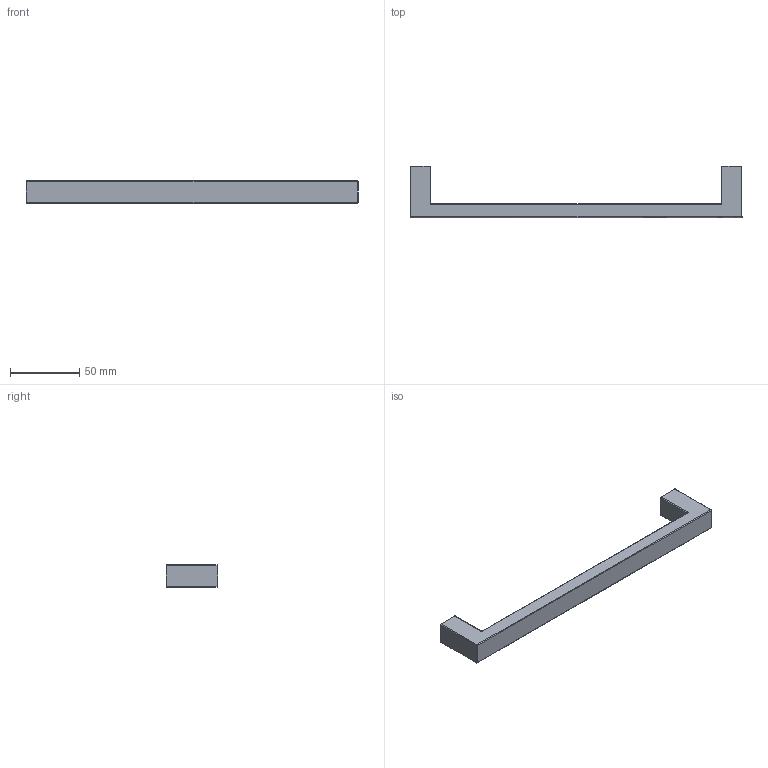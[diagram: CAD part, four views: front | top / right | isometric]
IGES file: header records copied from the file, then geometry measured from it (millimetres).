
Start section: Data from Parasolid IGES Translator 15.0.47, Copyright(c) 2006 Siemens P LM Software. All Rights Reserved.
Global section: file name: 9069807.igs; native system:  By UGS Corp.; preprocessor: XPlus GENERIC/IGES 3.0; author: Noname; organization: Noname; date: 20140122.181648; units: millimetre
Bounding box: 239 x 37.01 x 16.01 mm (x, y, z)
Surface area: 16036.5 mm2 (no closed solid volume)
Topology: 0 solids, 0 shells, 34 faces, 164 edges, 162 vertices
Faces by surface type: revolution 18, extrusion 16
